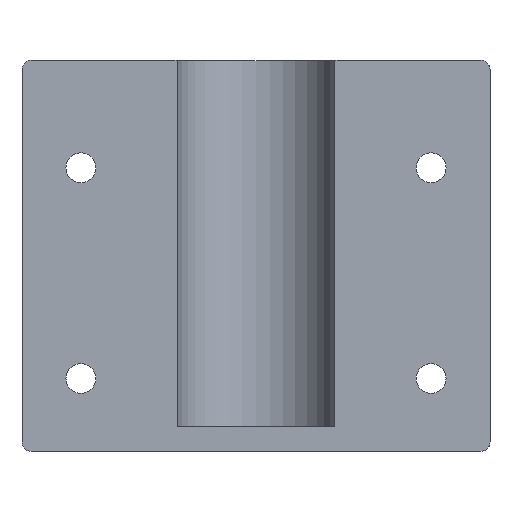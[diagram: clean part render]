
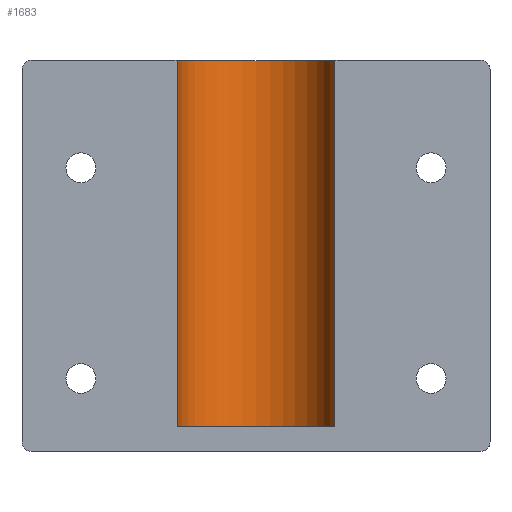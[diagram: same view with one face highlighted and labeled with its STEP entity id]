
A CAD part, top view. The second image highlights one B-rep face of the part: STEP entity #1683.
In plain terms, the highlighted cylindrical face has radius 25.15 mm (diameter 50.3 mm), a partial arc.
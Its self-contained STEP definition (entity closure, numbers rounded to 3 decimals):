
#62 = CARTESIAN_POINT ( 'NONE',  ( 0., -133.103, -24.75 ) ) ;
#402 = DIRECTION ( 'NONE',  ( 0., 0., -1. ) ) ;
#481 = ORIENTED_EDGE ( 'NONE', *, *, #2549, .F. ) ;
#561 = CARTESIAN_POINT ( 'NONE',  ( 0., -54.25, -24.75 ) ) ;
#665 = ORIENTED_EDGE ( 'NONE', *, *, #9514, .F. ) ;
#1138 = VERTEX_POINT ( 'NONE', #3222 ) ;
#1683 = ADVANCED_FACE ( 'NONE', ( #3301 ), #2355, .F. ) ;
#1901 = CIRCLE ( 'NONE', #6415, 25.15 ) ;
#2064 = DIRECTION ( 'NONE',  ( 0., 1., 0. ) ) ;
#2355 = CYLINDRICAL_SURFACE ( 'NONE', #6086, 25.15 ) ;
#2549 = EDGE_CURVE ( 'NONE', #5318, #3385, #7021, .T. ) ;
#2891 = AXIS2_PLACEMENT_3D ( 'NONE', #6685, #5901, #5122 ) ;
#3222 = CARTESIAN_POINT ( 'NONE',  ( 25.15, -54.25, -24.75 ) ) ;
#3246 = DIRECTION ( 'NONE',  ( 0., 0., 1. ) ) ;
#3301 = FACE_OUTER_BOUND ( 'NONE', #9767, .T. ) ;
#3385 = VERTEX_POINT ( 'NONE', #10034 ) ;
#3721 = ORIENTED_EDGE ( 'NONE', *, *, #9442, .T. ) ;
#4231 = VECTOR ( 'NONE', #8011, 1000. ) ;
#4794 = LINE ( 'NONE', #7239, #4231 ) ;
#4832 = ORIENTED_EDGE ( 'NONE', *, *, #8248, .T. ) ;
#5078 = VERTEX_POINT ( 'NONE', #10184 ) ;
#5083 = CIRCLE ( 'NONE', #2891, 25.15 ) ;
#5122 = DIRECTION ( 'NONE',  ( 0., 0., 1. ) ) ;
#5318 = VERTEX_POINT ( 'NONE', #9376 ) ;
#5901 = DIRECTION ( 'NONE',  ( 0., 1., 0. ) ) ;
#6086 = AXIS2_PLACEMENT_3D ( 'NONE', #62, #8727, #3246 ) ;
#6242 = CARTESIAN_POINT ( 'NONE',  ( -25.15, -133.103, -24.75 ) ) ;
#6415 = AXIS2_PLACEMENT_3D ( 'NONE', #561, #2064, #402 ) ;
#6685 = CARTESIAN_POINT ( 'NONE',  ( 0., 62.25, -24.75 ) ) ;
#7021 = LINE ( 'NONE', #6242, #7922 ) ;
#7239 = CARTESIAN_POINT ( 'NONE',  ( 25.15, -133.103, -24.75 ) ) ;
#7922 = VECTOR ( 'NONE', #10216, 1000. ) ;
#8011 = DIRECTION ( 'NONE',  ( 0., 1., 0. ) ) ;
#8248 = EDGE_CURVE ( 'NONE', #1138, #5078, #4794, .T. ) ;
#8727 = DIRECTION ( 'NONE',  ( 0., 1., 0. ) ) ;
#9376 = CARTESIAN_POINT ( 'NONE',  ( -25.15, -54.25, -24.75 ) ) ;
#9442 = EDGE_CURVE ( 'NONE', #5078, #3385, #5083, .T. ) ;
#9514 = EDGE_CURVE ( 'NONE', #1138, #5318, #1901, .T. ) ;
#9767 = EDGE_LOOP ( 'NONE', ( #4832, #3721, #481, #665 ) ) ;
#10034 = CARTESIAN_POINT ( 'NONE',  ( -25.15, 62.25, -24.75 ) ) ;
#10184 = CARTESIAN_POINT ( 'NONE',  ( 25.15, 62.25, -24.75 ) ) ;
#10216 = DIRECTION ( 'NONE',  ( 0., 1., 0. ) ) ;
